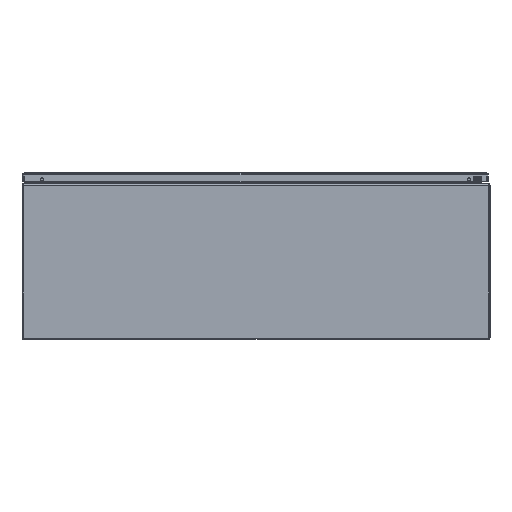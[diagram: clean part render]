
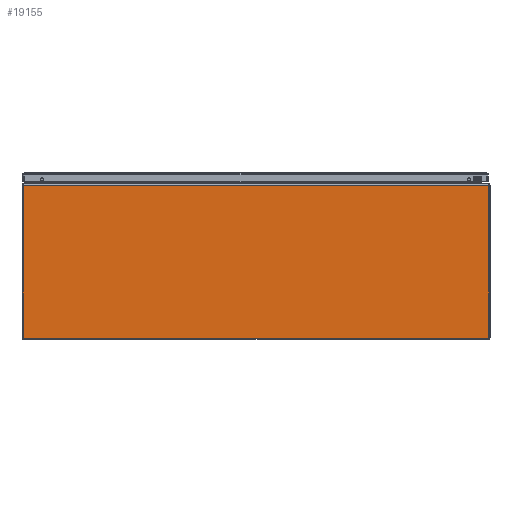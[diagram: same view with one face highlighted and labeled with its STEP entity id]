
A CAD part, front view. The second image highlights one B-rep face of the part: STEP entity #19155.
In plain terms, the highlighted planar face has unit normal (0, -1, 0).
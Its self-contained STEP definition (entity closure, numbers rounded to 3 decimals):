
#1214 = FACE_OUTER_BOUND ( 'NONE', #35121, .T. ) ;
#7716 = ORIENTED_EDGE ( 'NONE', *, *, #17382, .T. ) ;
#10314 = CARTESIAN_POINT ( 'NONE',  ( 18., 0., 0.08 ) ) ;
#10621 = DIRECTION ( 'NONE',  ( 0., 0., -1. ) ) ;
#10623 = DIRECTION ( 'NONE',  ( 0., -1., 0. ) ) ;
#10628 = PLANE ( 'NONE',  #13475 ) ;
#13475 = AXIS2_PLACEMENT_3D ( 'NONE', #10314, #10623, #10621 ) ;
#13718 = ORIENTED_EDGE ( 'NONE', *, *, #17381, .F. ) ;
#13719 = ORIENTED_EDGE ( 'NONE', *, *, #17380, .F. ) ;
#13720 = ORIENTED_EDGE ( 'NONE', *, *, #17378, .T. ) ;
#17378 = EDGE_CURVE ( 'NONE', #38195, #38457, #23453, .T. ) ;
#17380 = EDGE_CURVE ( 'NONE', #38195, #38360, #23455, .T. ) ;
#17381 = EDGE_CURVE ( 'NONE', #38360, #38033, #23448, .T. ) ;
#17382 = EDGE_CURVE ( 'NONE', #38457, #38033, #23450, .T. ) ;
#18754 = CARTESIAN_POINT ( 'NONE',  ( 18., 0., 0.08 ) ) ;
#18932 = CARTESIAN_POINT ( 'NONE',  ( 18., 0., 11.838 ) ) ;
#18971 = DIRECTION ( 'NONE',  ( 0., 0., -1. ) ) ;
#18975 = DIRECTION ( 'NONE',  ( -1., 0., 0. ) ) ;
#18976 = CARTESIAN_POINT ( 'NONE',  ( -17.921, 0., 12.569 ) ) ;
#18977 = DIRECTION ( 'NONE',  ( 0., 0., -1. ) ) ;
#18982 = CARTESIAN_POINT ( 'NONE',  ( 17.921, 0., 0.08 ) ) ;
#18984 = DIRECTION ( 'NONE',  ( -1., 0., 0. ) ) ;
#19155 = ADVANCED_FACE ( 'NONE', ( #1214 ), #10628, .T. ) ;
#23448 = LINE ( 'NONE', #18754, #23457 ) ;
#23450 = LINE ( 'NONE', #18976, #23459 ) ;
#23452 = VECTOR ( 'NONE', #18984, 39.37 ) ;
#23453 = LINE ( 'NONE', #18932, #23452 ) ;
#23454 = VECTOR ( 'NONE', #18977, 39.37 ) ;
#23455 = LINE ( 'NONE', #18982, #23454 ) ;
#23457 = VECTOR ( 'NONE', #18975, 39.37 ) ;
#23459 = VECTOR ( 'NONE', #18971, 39.37 ) ;
#35121 = EDGE_LOOP ( 'NONE', ( #13718, #13719, #13720, #7716 ) ) ;
#38033 = VERTEX_POINT ( 'NONE', #46149 ) ;
#38195 = VERTEX_POINT ( 'NONE', #43984 ) ;
#38360 = VERTEX_POINT ( 'NONE', #44071 ) ;
#38457 = VERTEX_POINT ( 'NONE', #44122 ) ;
#43984 = CARTESIAN_POINT ( 'NONE',  ( 17.921, 0., 11.838 ) ) ;
#44071 = CARTESIAN_POINT ( 'NONE',  ( 17.921, 0., 0.08 ) ) ;
#44122 = CARTESIAN_POINT ( 'NONE',  ( -17.921, 0., 11.838 ) ) ;
#46149 = CARTESIAN_POINT ( 'NONE',  ( -17.921, 0., 0.08 ) ) ;
